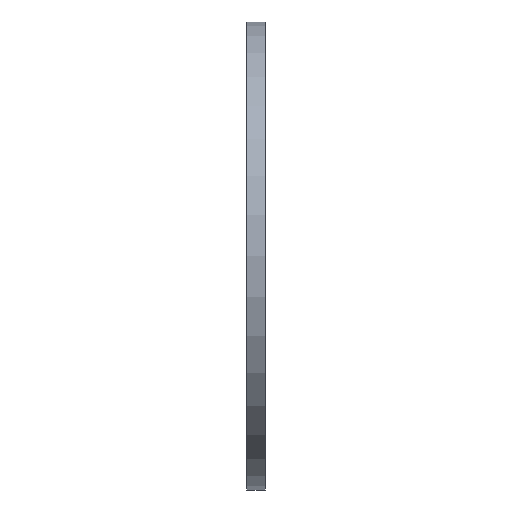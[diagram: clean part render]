
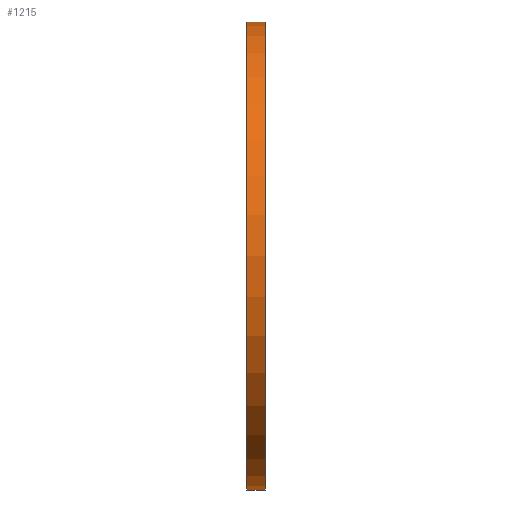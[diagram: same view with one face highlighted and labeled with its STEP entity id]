
A CAD part, left-side view. The second image highlights one B-rep face of the part: STEP entity #1215.
In plain terms, the highlighted cylindrical face has radius 255 mm (diameter 510 mm), a partial arc.
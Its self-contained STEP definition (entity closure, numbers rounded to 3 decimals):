
#15 = ORIENTED_EDGE ( 'NONE', *, *, #450, .F. ) ;
#69 = FACE_OUTER_BOUND ( 'NONE', #569, .T. ) ;
#73 = AXIS2_PLACEMENT_3D ( 'NONE', #670, #689, #1387 ) ;
#214 = LINE ( 'NONE', #1362, #705 ) ;
#294 = CIRCLE ( 'NONE', #606, 255. ) ;
#367 = DIRECTION ( 'NONE',  ( 0., 0., -1. ) ) ;
#450 = EDGE_CURVE ( 'NONE', #1375, #497, #1212, .T. ) ;
#463 = CARTESIAN_POINT ( 'NONE',  ( 0., 0., 255. ) ) ;
#487 = DIRECTION ( 'NONE',  ( 0., -1., 0. ) ) ;
#497 = VERTEX_POINT ( 'NONE', #568 ) ;
#568 = CARTESIAN_POINT ( 'NONE',  ( 0., 0., -255. ) ) ;
#569 = EDGE_LOOP ( 'NONE', ( #1218, #1479, #864, #15 ) ) ;
#591 = CARTESIAN_POINT ( 'NONE',  ( 0., 20., 0. ) ) ;
#606 = AXIS2_PLACEMENT_3D ( 'NONE', #591, #1061, #367 ) ;
#607 = VECTOR ( 'NONE', #487, 1000. ) ;
#670 = CARTESIAN_POINT ( 'NONE',  ( 0., 0., 0. ) ) ;
#677 = DIRECTION ( 'NONE',  ( 0., -1., 0. ) ) ;
#689 = DIRECTION ( 'NONE',  ( 0., -1., 0. ) ) ;
#697 = LINE ( 'NONE', #1294, #607 ) ;
#705 = VECTOR ( 'NONE', #677, 1000. ) ;
#864 = ORIENTED_EDGE ( 'NONE', *, *, #1454, .T. ) ;
#900 = AXIS2_PLACEMENT_3D ( 'NONE', #1207, #994, #1461 ) ;
#907 = EDGE_CURVE ( 'NONE', #908, #1375, #214, .T. ) ;
#908 = VERTEX_POINT ( 'NONE', #1145 ) ;
#963 = CYLINDRICAL_SURFACE ( 'NONE', #900, 255. ) ;
#994 = DIRECTION ( 'NONE',  ( 0., -1., 0. ) ) ;
#1061 = DIRECTION ( 'NONE',  ( 0., -1., 0. ) ) ;
#1095 = EDGE_CURVE ( 'NONE', #908, #1344, #294, .T. ) ;
#1145 = CARTESIAN_POINT ( 'NONE',  ( 0., 20., 255. ) ) ;
#1207 = CARTESIAN_POINT ( 'NONE',  ( 0., 0., 0. ) ) ;
#1212 = CIRCLE ( 'NONE', #73, 255. ) ;
#1215 = ADVANCED_FACE ( 'NONE', ( #69 ), #963, .T. ) ;
#1218 = ORIENTED_EDGE ( 'NONE', *, *, #907, .F. ) ;
#1270 = CARTESIAN_POINT ( 'NONE',  ( 0., 20., -255. ) ) ;
#1294 = CARTESIAN_POINT ( 'NONE',  ( 0., 0., -255. ) ) ;
#1344 = VERTEX_POINT ( 'NONE', #1270 ) ;
#1362 = CARTESIAN_POINT ( 'NONE',  ( 0., 0., 255. ) ) ;
#1375 = VERTEX_POINT ( 'NONE', #463 ) ;
#1387 = DIRECTION ( 'NONE',  ( 0., 0., -1. ) ) ;
#1454 = EDGE_CURVE ( 'NONE', #1344, #497, #697, .T. ) ;
#1461 = DIRECTION ( 'NONE',  ( 0., 0., -1. ) ) ;
#1479 = ORIENTED_EDGE ( 'NONE', *, *, #1095, .T. ) ;
